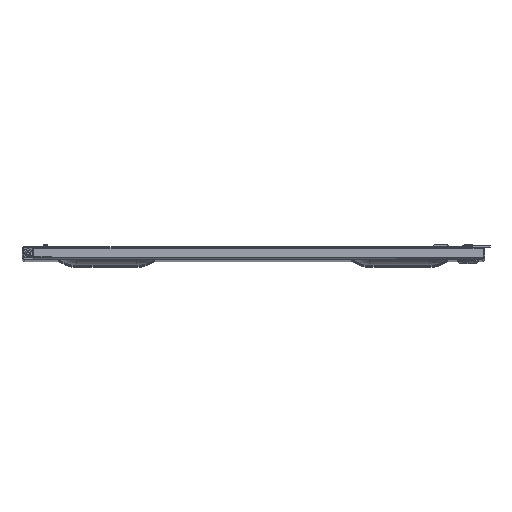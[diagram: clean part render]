
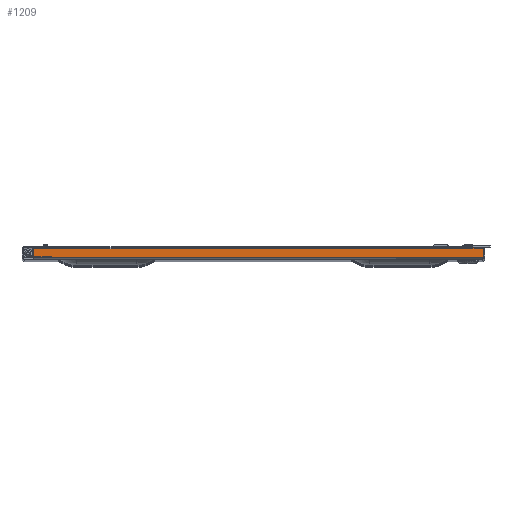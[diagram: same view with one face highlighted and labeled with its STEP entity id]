
A CAD part, top view. The second image highlights one B-rep face of the part: STEP entity #1209.
In plain terms, the highlighted planar face has unit normal (0, 0, 1).
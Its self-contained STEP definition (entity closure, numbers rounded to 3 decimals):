
#1209 = ADVANCED_FACE( '', ( #3204 ), #3205, .T. );
#3204 = FACE_OUTER_BOUND( '', #6248, .T. );
#3205 = PLANE( '', #6249 );
#6248 = EDGE_LOOP( '', ( #9713, #9714, #9715, #9716, #9717, #9718, #9719 ) );
#6249 = AXIS2_PLACEMENT_3D( '', #9720, #9721, #9722 );
#9713 = ORIENTED_EDGE( '', *, *, #18261, .T. );
#9714 = ORIENTED_EDGE( '', *, *, #18262, .T. );
#9715 = ORIENTED_EDGE( '', *, *, #18263, .F. );
#9716 = ORIENTED_EDGE( '', *, *, #18264, .F. );
#9717 = ORIENTED_EDGE( '', *, *, #18265, .F. );
#9718 = ORIENTED_EDGE( '', *, *, #18266, .T. );
#9719 = ORIENTED_EDGE( '', *, *, #18267, .T. );
#9720 = CARTESIAN_POINT( '', ( -232.88, 1.181, 708.025 ) );
#9721 = DIRECTION( '', ( 0., 0., 1. ) );
#9722 = DIRECTION( '', ( 0., -1., 0. ) );
#18261 = EDGE_CURVE( '', #21796, #21797, #21798, .T. );
#18262 = EDGE_CURVE( '', #21797, #21799, #21800, .T. );
#18263 = EDGE_CURVE( '', #21801, #21799, #21802, .T. );
#18264 = EDGE_CURVE( '', #21803, #21801, #21804, .T. );
#18265 = EDGE_CURVE( '', #21805, #21803, #21806, .T. );
#18266 = EDGE_CURVE( '', #21805, #21807, #21808, .T. );
#18267 = EDGE_CURVE( '', #21807, #21796, #21809, .T. );
#21796 = VERTEX_POINT( '', #26840 );
#21797 = VERTEX_POINT( '', #26841 );
#21798 = LINE( '', #26842, #26843 );
#21799 = VERTEX_POINT( '', #26844 );
#21800 = LINE( '', #26845, #26846 );
#21801 = VERTEX_POINT( '', #26847 );
#21802 = LINE( '', #26848, #26849 );
#21803 = VERTEX_POINT( '', #26850 );
#21804 = LINE( '', #26851, #26852 );
#21805 = VERTEX_POINT( '', #26853 );
#21806 = LINE( '', #26854, #26855 );
#21807 = VERTEX_POINT( '', #26856 );
#21808 = LINE( '', #26857, #26858 );
#21809 = LINE( '', #26859, #26860 );
#26840 = CARTESIAN_POINT( '', ( 243.98, 2.184, 708.025 ) );
#26841 = CARTESIAN_POINT( '', ( 243.98, 12.04, 708.025 ) );
#26842 = CARTESIAN_POINT( '', ( 243.98, 1.181, 708.025 ) );
#26843 = VECTOR( '', #33213, 1000. );
#26844 = CARTESIAN_POINT( '', ( 232.882, 12.04, 708.025 ) );
#26845 = CARTESIAN_POINT( '', ( 245.453, 12.04, 708.025 ) );
#26846 = VECTOR( '', #33214, 1000. );
#26847 = CARTESIAN_POINT( '', ( 232.882, 11.303, 708.025 ) );
#26848 = CARTESIAN_POINT( '', ( 232.882, 11.303, 708.025 ) );
#26849 = VECTOR( '', #33215, 1000. );
#26850 = CARTESIAN_POINT( '', ( 232.88, 11.303, 708.025 ) );
#26851 = CARTESIAN_POINT( '', ( 232.88, 11.303, 708.025 ) );
#26852 = VECTOR( '', #33216, 1000. );
#26853 = CARTESIAN_POINT( '', ( -232.88, 11.303, 708.025 ) );
#26854 = CARTESIAN_POINT( '', ( 232.88, 11.303, 708.025 ) );
#26855 = VECTOR( '', #33217, 1000. );
#26856 = CARTESIAN_POINT( '', ( -232.88, 2.184, 708.025 ) );
#26857 = CARTESIAN_POINT( '', ( -232.88, 1.181, 708.025 ) );
#26858 = VECTOR( '', #33218, 1000. );
#26859 = CARTESIAN_POINT( '', ( -232.88, 2.184, 708.025 ) );
#26860 = VECTOR( '', #33219, 1000. );
#33213 = DIRECTION( '', ( 0., 1., 0. ) );
#33214 = DIRECTION( '', ( -1., 0., 0. ) );
#33215 = DIRECTION( '', ( 0., 1., 0. ) );
#33216 = DIRECTION( '', ( 1., 0., 0. ) );
#33217 = DIRECTION( '', ( 1., 0., 0. ) );
#33218 = DIRECTION( '', ( 0., -1., 0. ) );
#33219 = DIRECTION( '', ( 1., 0., 0. ) );
